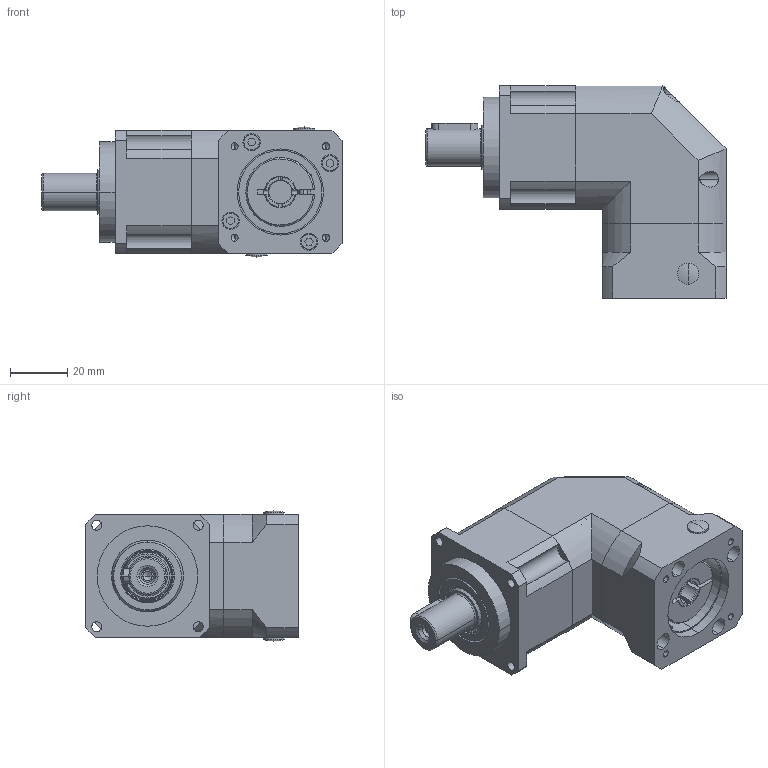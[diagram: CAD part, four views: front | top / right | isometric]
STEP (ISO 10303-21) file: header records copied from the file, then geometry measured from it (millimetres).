
FILE_DESCRIPTION (( 'STEP AP203' ), '1' );
FILE_NAME ('PHFZ042-L1-8-30-45-M3.STEP', '2020-06-27T06:12:44', ( 'ylmfeng' ), ( 'ylmfeng.com' ), 'SwSTEP 2.0', 'SolidWorks 2014', '' );
FILE_SCHEMA (( 'CONFIG_CONTROL_DESIGN' ));
Length unit declared in the file: millimetre
Products named in the file (1): PHFZ042-L1-8-30-45-M3
Bounding box: 104.5 x 74 x 45.3 mm (x, y, z)
Volume: 172665 mm3; surface area: 42763.3 mm2
Topology: 19 solids, 19 shells, 559 faces, 1382 edges, 873 vertices
Faces by surface type: plane 220, cylinder 194, cone 93, torus 36, bspline 16
Entity records: 17543 total; most frequent: CARTESIAN_POINT 4154, DIRECTION 2844, ORIENTED_EDGE 2720, EDGE_CURVE 1360, AXIS2_PLACEMENT_3D 1099, VERTEX_POINT 873, VECTOR 646, LINE 646
